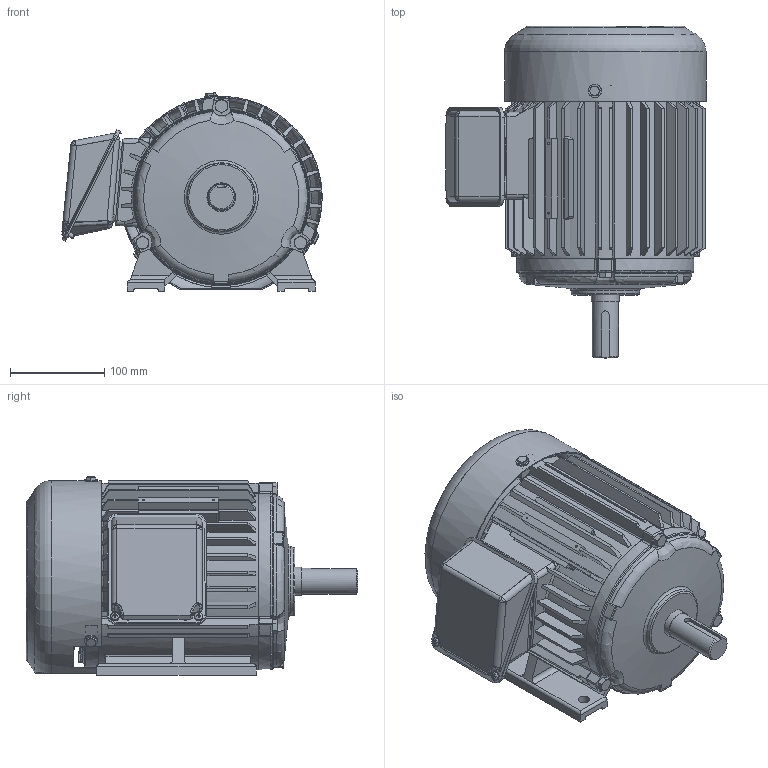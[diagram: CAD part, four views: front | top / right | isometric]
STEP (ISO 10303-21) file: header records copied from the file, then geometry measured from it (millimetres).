
FILE_DESCRIPTION(/* description */ ('Unknown'),/* implementation_level */ '2;1');
FILE_NAME(/* name */ '1-SMA31979_외형도(178DIA)',/* time_stamp */ '2026-07-24T08:13:25+09:00',/* author */ ('Unknown'),/* organization */ ('Unknown'),/* preprocessor_version */ 'ST-DEVELOPER v16',/* originating_system */ 'DEX',/* authorisation */ $);
FILE_SCHEMA (('AUTOMOTIVE_DESIGN {1 0 10303 214 3 1 1}'));
Products named in the file (16): 1-SMA31979_寇屈档(178DI; 2-SMA-33524_FRAME(178DIA); 3-SMA-33525_¾Õºê¶óÄÏ(178DÅ¾|·Ï(; 4-SMA-33526_菴粽塭鰍(178D; 5-SMA-30866-A_SHAFT(178DIA); 6-SMA-31243_FAN(194DIA); 7-SMA-30090_FAN COVER(178DIA); 8-SMA-33042_T-BOX(鼻)(194DIA); 9-SMA-33043_T-BOX(ж)(194DIA); ﾀｰｰ｢ｺｼﾆｮ M8x1.25xj{; 蹴辨 S2; 褊濠 菅斬 該葬 獐お M5x; 幫陝Ы楠雖 M6x1; T-BOX 憶っ(178~194DIA; 6206ZZ; 6305ZZ
Assembly tree (23 placements, depth 2):
  1-SMA31979_寇屈档(178DI
    2-SMA-33524_FRAME(178DIA)
    3-SMA-33525_¾Õºê¶óÄÏ(178DÅ¾|·Ï(
    4-SMA-33526_菴粽塭鰍(178D
    5-SMA-30866-A_SHAFT(178DIA)
    6-SMA-31243_FAN(194DIA)
    7-SMA-30090_FAN COVER(178DIA)
    8-SMA-33042_T-BOX(鼻)(194DIA)
    9-SMA-33043_T-BOX(ж)(194DIA)
    ﾀｰｰ｢ｺｼﾆｮ M8x1.25xj{  x6
    蹴辨 S2
    褊濠 菅斬 該葬 獐お M5x  x2
    幫陝Ы楠雖 M6x1  x3
    T-BOX 憶っ(178~194DIA
    6206ZZ
    6305ZZ
Bounding box: 276.74 x 353 x 211.12 mm (x, y, z)
Volume: 2007646.4 mm3; surface area: 907874 mm2
Topology: 45 solids, 45 shells, 1751 faces, 4462 edges, 2795 vertices
Faces by surface type: plane 564, cylinder 521, cone 311, torus 179, bspline 138, sphere 38
Full cylindrical faces by diameter (mm): 2 x2, 2.2 x2, 4.134 x2, 4.917 x2, 5 x2, 6 x8, 6.6 x4, 6.647 x12, 7 x2, 8 x12, 9 x2, 10 x6, 12 x4, 14 x3, 22 x1, 24.8 x1, 25 x2, 25.6 x1, 28 x2, 29.1 x1, 29.8 x1, 30 x2, 30.6 x1, 34 x1, 35.571 x2, 35.971 x2, 39.143 x2, 39.543 x2, 40 x4, 51.029 x2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
Entity records: 66165 total; most frequent: CARTESIAN_POINT 25284, ORIENTED_EDGE 7666, DIRECTION 7450, EDGE_CURVE 3833, AXIS2_PLACEMENT_3D 3035, VERTEX_POINT 2519, FACE_BOUND 1928, EDGE_LOOP 1904
